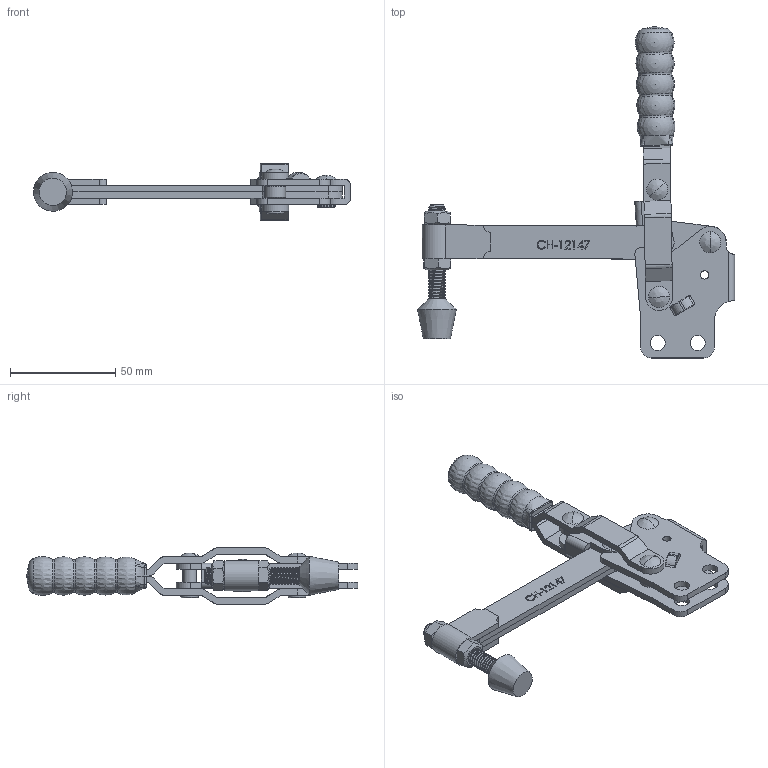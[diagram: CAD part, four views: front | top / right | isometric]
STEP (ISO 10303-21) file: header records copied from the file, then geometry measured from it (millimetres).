
FILE_DESCRIPTION(/* description */ ('STEP AP203'),/* implementation_level */ '2;1');
FILE_NAME(/* name */ 'E:\SERWER_ZAPAS\MODELE brakujace\brakujące stepy_08012019\CH-12147\CH-12147_ZAMKNIETY.stp',/* time_stamp */ '2019-01-31T15:20:25+01:00',/* author */ ('Admin'),/* organization */ ('Microsoft'),/* preprocessor_version */ 'ST-DEVELOPER v17.2',/* originating_system */ 'Autodesk Inventor 2019',/* authorisation */ '');
FILE_SCHEMA (('AUTOMOTIVE_DESIGN { 1 0 10303 214 3 1 1 }'));
Products named in the file (11): CH-12147_ZAMKNIETY; CH-12130-04 CONNECTING-PLATE; CH-12130-05; CH-12130-03 STRAIGHT HANDLE; CH-12130-06; CH-12130-08; CH-FC-56212 SPINDLE SUPPLIED; CH-FC-56212 Nut; CH-12130ºùÂ«ÊÖ±úÌ×; CH-12147-02 LONG SOLID BAR_Ä¬ÈÏ_°´
¼Ó¹¤_; CH-12145-01 STRAIGHT BASE
Assembly tree (13 placements, depth 2):
  CH-12147_ZAMKNIETY
    CH-12130-04 CONNECTING-PLATE
    CH-12130-05
    CH-12130-03 STRAIGHT HANDLE
    CH-12130-08  x2
    CH-12130-06  x2
    CH-FC-56212 Nut  x2
    CH-FC-56212 SPINDLE SUPPLIED
    CH-12130ºùÂ«ÊÖ±úÌ×
    CH-12147-02 LONG SOLID BAR_Ä¬ÈÏ_°´
¼Ó¹¤_
    CH-12145-01 STRAIGHT BASE
Bounding box: 150.5 x 157.58 x 26.8 mm (x, y, z)
Volume: 58738.4 mm3; surface area: 46853.3 mm2
Topology: 16 solids, 16 shells, 663 faces, 1865 edges, 1258 vertices
Faces by surface type: plane 291, bspline 179, cylinder 142, torus 24, cone 20, sphere 7
Full cylindrical faces by diameter (mm): 1.55 x1, 1.744 x1, 3.9 x2, 6.3 x6, 6.4 x20, 6.8 x1, 7.2 x4, 7.92 x32, 8.4 x2, 10 x1
Entity records: 41041 total; most frequent: CARTESIAN_POINT 25470, ORIENTED_EDGE 3480, DIRECTION 2601, EDGE_CURVE 1740, VERTEX_POINT 1186, LINE 937, VECTOR 937, AXIS2_PLACEMENT_3D 832
